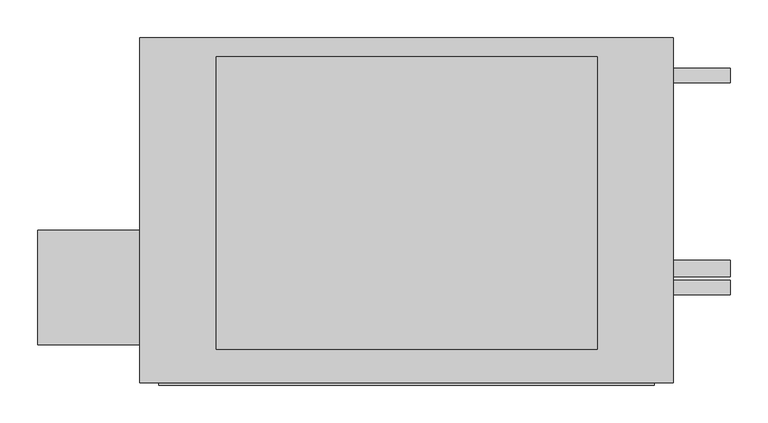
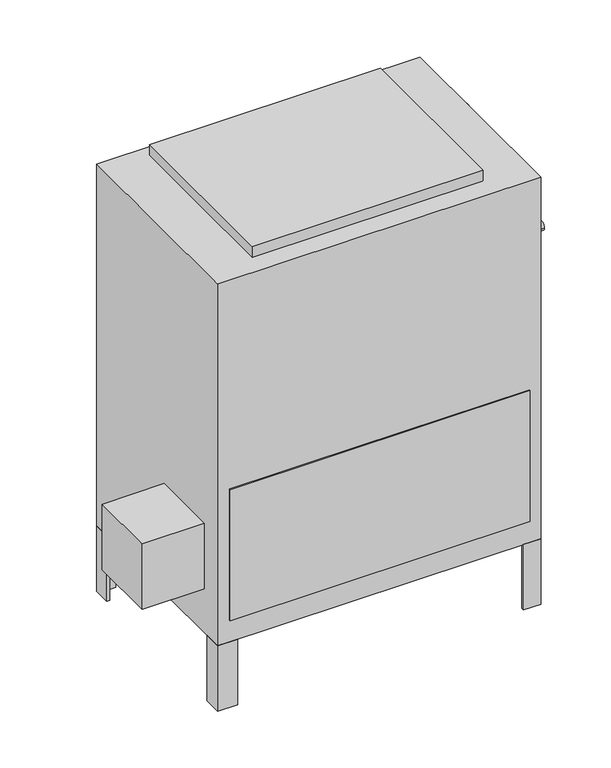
"""IFC4 building model written with IfcOpenShell, lengths in millimetres: proxy geometry, Concealed_High_Capacity_Vertical_Fan_Coil_Unit_-_42DDA_-_CARRIER_-_2-Pipe_Cool-EHeat_RH_2022 : Size 08 - 277v/60Hz/1Ph - 6 Row 6.0kW."""

from ifc_helpers import new_model, si_unit, point, frame, frame_2d, origin, origin_with_axes, place, context, project, spatial, polyline, circle_curve, trimmed, segment, composite_curve, outline, extrude, source, transform, mapped, element, save


def mechanical_equipment_43910603(model_context):
    return source(origin(), model_context, "Body", "SweptSolid", [
        extrude(outline(polyline([(-339.725, -417.5125), (-339.725, -265.1125), (-203.2, -265.1125), (-203.2, -417.5125), (-339.725, -417.5125)])), frame((0.0, 0.0, 101.6), z_axis=(0.0, 0.0, 1.0), x_axis=(1.0, 0.0, 0.0)), (0.0, 0.0, 1.0), 152.4),
        extrude(outline(polyline([(508.0, -46.0375), (501.65, -46.0375), (501.65, -14.2875), (469.9, -14.2875), (469.9, -7.9375), (508.0, -7.9375), (508.0, -46.0375)])), frame((0.0, 0.0, -152.4), z_axis=(0.0, 0.0, 1.0), x_axis=(1.0, 0.0, 0.0)), (0.0, 0.0, 1.0), 152.4),
        extrude(outline(polyline([(-165.1, -7.9375), (-165.1, -14.2875), (-196.85, -14.2875), (-196.85, -46.0375), (-203.2, -46.0375), (-203.2, -7.9375), (-165.1, -7.9375)])), frame((0.0, 0.0, -152.4), z_axis=(0.0, 0.0, 1.0), x_axis=(1.0, 0.0, 0.0)), (0.0, 0.0, 1.0), 152.4),
        extrude(outline(polyline([(469.9, -468.3125), (469.9, -461.9625), (501.65, -461.9625), (501.65, -430.2125), (508.0, -430.2125), (508.0, -468.3125), (469.9, -468.3125)])), frame((0.0, 0.0, -152.4), z_axis=(0.0, 0.0, 1.0), x_axis=(1.0, 0.0, 0.0)), (0.0, 0.0, 1.0), 152.4),
        extrude(outline(polyline([(-203.2, -428.1199163), (-196.85, -428.1199163), (-196.85, -461.9625), (-159.7318533, -461.9625), (-159.7318533, -468.3125), (-203.2, -468.3125), (-203.2, -428.1199163)])), frame((0.0, 0.0, -152.4), z_axis=(0.0, 0.0, 1.0), x_axis=(1.0, 0.0, 0.0)), (0.0, 0.0, 1.0), 152.4),
        extrude(outline(polyline([(406.4, -33.3375), (406.4, -423.8625), (-101.6, -423.8625), (-101.6, -33.3375), (406.4, -33.3375)])), frame((0.0, 0.0, 841.375), z_axis=(0.0, 0.0, 1.0), x_axis=(1.0, 0.0, 0.0)), (0.0, 0.0, 1.0), 25.4),
        extrude(outline(polyline([(482.6, -471.4875), (-177.8, -471.4875), (-177.8, -468.3125), (482.6, -468.3125), (482.6, -471.4875)])), frame((0.0, 0.0, 50.8), z_axis=(0.0, 0.0, 1.0), x_axis=(1.0, 0.0, 0.0)), (0.0, 0.0, 1.0), 304.8),
        extrude(outline(composite_curve([segment(trimmed(circle_curve(frame_2d((-58.7375, 727.075)), 9.525), [point((-49.2125, 727.075))], [point((-68.2625, 727.075))], False, "CARTESIAN"), True, "CONTINUOUS"), segment(trimmed(circle_curve(frame_2d((-58.7375, 727.075)), 9.525), [point((-68.2625, 727.075))], [point((-49.2125, 727.075))], False, "CARTESIAN"), True, "CONTINUOUS")], self_intersect=False)), frame((508.0, 0.0, 0.0), z_axis=(1.0, 0.0, 0.0), x_axis=(0.0, 1.0, 0.0)), (0.0, 0.0, 1.0), 76.2),
        extrude(outline(composite_curve([segment(trimmed(circle_curve(frame_2d((-341.3125, 625.475)), 9.525), [point((-331.7875, 625.475))], [point((-350.8375, 625.475))], False, "CARTESIAN"), True, "CONTINUOUS"), segment(trimmed(circle_curve(frame_2d((-341.3125, 625.475)), 9.525), [point((-350.8375, 625.475))], [point((-331.7875, 625.475))], False, "CARTESIAN"), True, "CONTINUOUS")], self_intersect=False)), frame((508.0, 0.0, 0.0), z_axis=(1.0, 0.0, 0.0), x_axis=(0.0, 1.0, 0.0)), (0.0, 0.0, 1.0), 76.2),
        extrude(outline(composite_curve([segment(trimmed(circle_curve(frame_2d((-315.9125, 536.575)), 11.1125), [point((-304.8, 536.575))], [point((-327.025, 536.575))], False, "CARTESIAN"), True, "CONTINUOUS"), segment(trimmed(circle_curve(frame_2d((-315.9125, 536.575)), 11.1125), [point((-327.025, 536.575))], [point((-304.8, 536.575))], False, "CARTESIAN"), True, "CONTINUOUS")], self_intersect=False)), frame((508.0, 0.0, 0.0), z_axis=(1.0, 0.0, 0.0), x_axis=(0.0, 1.0, 0.0)), (0.0, 0.0, 1.0), 76.2),
        extrude(outline(polyline([(508.0, -7.9375), (508.0, -468.3125), (-203.2, -468.3125), (-203.2, -7.9375), (508.0, -7.9375)])), origin_with_axes(), (0.0, 0.0, 1.0), 841.375),
    ])


if __name__ == "__main__":
    model = new_model("IFC4")
    model_context = context("Model", 3, world=origin())
    ifc_project = project(units=[si_unit("LENGTHUNIT", "METRE", prefix="MILLI")], contexts=[model_context])
    site = spatial("IfcSite", under=ifc_project)
    building = spatial("IfcBuilding", under=site)
    placement = place(None, origin())
    mechanical_equipment_shape = mechanical_equipment_43910603(model_context)
    element("IfcBuildingElementProxy", 1, Name="Concealed_High_Capacity_Vertical_Fan_Coil_Unit_-_42DDA_-_CARRIER_-_2-Pipe_Cool-EHeat_RH_2022 : Size 08 - 277v/60Hz/1Ph - 6 Row 6.0kW", ObjectType="Concealed_High_Capacity_Vertical_Fan_Coil_Unit_-_42DDA_-_CARRIER_-_2-Pipe_Cool-EHeat_RH_2022 : Size 08 - 277v/60Hz/1Ph - 6 Row 6.0kW", at=placement, inside=building, context=model_context, shape_type="MappedRepresentation", body=[
        mapped(mechanical_equipment_shape, transform((0.0, 0.0, 0.0), x_axis=(1.0, 0.0, 0.0), y_axis=(0.0, 1.0, 0.0), z_axis=(0.0, 0.0, 1.0))),
    ])
    save(model, "model.ifc")
